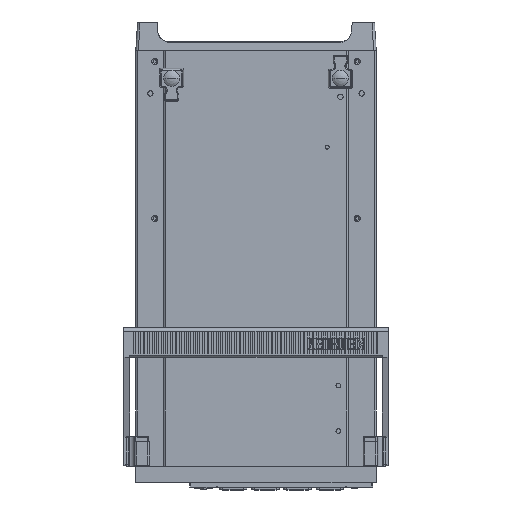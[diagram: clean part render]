
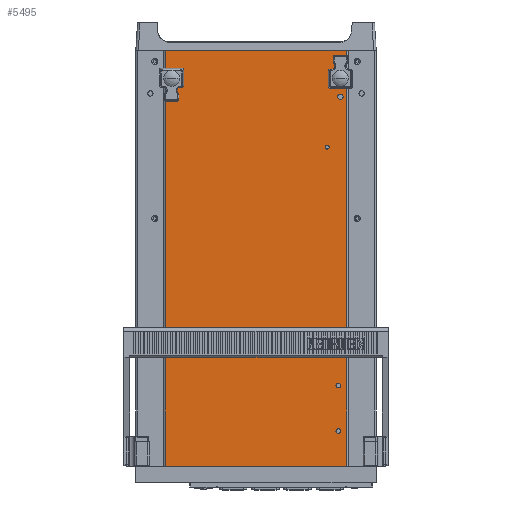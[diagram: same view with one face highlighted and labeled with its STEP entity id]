
A CAD part, front view. The second image highlights one B-rep face of the part: STEP entity #5495.
In plain terms, the highlighted planar face has unit normal (0, -1, 0).
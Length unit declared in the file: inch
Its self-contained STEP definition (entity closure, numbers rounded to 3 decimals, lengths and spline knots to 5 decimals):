
#247=CARTESIAN_POINT('',(-7.015,0.,-1.72));
#248=DIRECTION('',(0.,1.,0.));
#249=DIRECTION('',(1.,0.,0.));
#250=AXIS2_PLACEMENT_3D('',#247,#248,#249);
#255=CARTESIAN_POINT('',(-7.015,0.,-1.72));
#256=DIRECTION('',(0.,1.,0.));
#257=DIRECTION('',(-1.,0.,0.));
#258=AXIS2_PLACEMENT_3D('',#255,#256,#257);
#263=CARTESIAN_POINT('',(-7.015,0.,-1.07));
#264=DIRECTION('',(0.,1.,0.));
#265=DIRECTION('',(1.,0.,0.));
#266=AXIS2_PLACEMENT_3D('',#263,#264,#265);
#271=CARTESIAN_POINT('',(-7.015,0.,-1.07));
#272=DIRECTION('',(0.,1.,0.));
#273=DIRECTION('',(-1.,0.,0.));
#274=AXIS2_PLACEMENT_3D('',#271,#272,#273);
#279=CARTESIAN_POINT('',(-1.105,0.,-1.72));
#280=DIRECTION('',(0.,1.,0.));
#281=DIRECTION('',(1.,0.,0.));
#282=AXIS2_PLACEMENT_3D('',#279,#280,#281);
#287=CARTESIAN_POINT('',(-1.105,0.,-1.72));
#288=DIRECTION('',(0.,1.,0.));
#289=DIRECTION('',(-1.,0.,0.));
#290=AXIS2_PLACEMENT_3D('',#287,#288,#289);
#295=CARTESIAN_POINT('',(-1.105,0.,-1.07));
#296=DIRECTION('',(0.,1.,0.));
#297=DIRECTION('',(1.,0.,0.));
#298=AXIS2_PLACEMENT_3D('',#295,#296,#297);
#303=CARTESIAN_POINT('',(-1.105,0.,-1.07));
#304=DIRECTION('',(0.,1.,0.));
#305=DIRECTION('',(-1.,0.,0.));
#306=AXIS2_PLACEMENT_3D('',#303,#304,#305);
#311=CARTESIAN_POINT('',(-1.565,0.,-3.48));
#312=DIRECTION('',(0.,1.,0.));
#313=DIRECTION('',(1.,0.,0.));
#314=AXIS2_PLACEMENT_3D('',#311,#312,#313);
#319=CARTESIAN_POINT('',(-1.565,0.,-3.48));
#320=DIRECTION('',(0.,1.,0.));
#321=DIRECTION('',(-1.,0.,0.));
#322=AXIS2_PLACEMENT_3D('',#319,#320,#321);
#327=DIRECTION('',(-1.,0.,0.));
#328=VECTOR('',#327,6.346);
#329=CARTESIAN_POINT('',(-0.887,0.,-0.1));
#330=LINE('',#329,#328);
#334=DIRECTION('',(0.,0.,-1.));
#335=VECTOR('',#334,14.55);
#336=CARTESIAN_POINT('',(-0.887,0.,-0.1));
#337=LINE('',#336,#335);
#341=DIRECTION('',(-1.,0.,0.));
#342=VECTOR('',#341,6.346);
#343=CARTESIAN_POINT('',(-0.887,0.,-14.65));
#344=LINE('',#343,#342);
#348=CARTESIAN_POINT('',(-1.176,0.,-11.83));
#349=DIRECTION('',(0.,1.,0.));
#350=DIRECTION('',(0.,0.,-1.));
#351=AXIS2_PLACEMENT_3D('',#348,#349,#350);
#356=CARTESIAN_POINT('',(-1.176,0.,-11.83));
#357=DIRECTION('',(0.,1.,0.));
#358=DIRECTION('',(0.,0.,1.));
#359=AXIS2_PLACEMENT_3D('',#356,#357,#358);
#364=CARTESIAN_POINT('',(-1.176,0.,-13.424));
#365=DIRECTION('',(0.,1.,0.));
#366=DIRECTION('',(0.,0.,-1.));
#367=AXIS2_PLACEMENT_3D('',#364,#365,#366);
#372=CARTESIAN_POINT('',(-1.176,0.,-13.424));
#373=DIRECTION('',(0.,1.,0.));
#374=DIRECTION('',(0.,0.,1.));
#375=AXIS2_PLACEMENT_3D('',#372,#373,#374);
#380=CARTESIAN_POINT('',(-5.06,0.,-9.91));
#381=DIRECTION('',(0.,1.,0.));
#382=DIRECTION('',(1.,0.,0.));
#383=AXIS2_PLACEMENT_3D('',#380,#381,#382);
#388=CARTESIAN_POINT('',(-5.06,0.,-9.91));
#389=DIRECTION('',(0.,1.,0.));
#390=DIRECTION('',(-1.,0.,0.));
#391=AXIS2_PLACEMENT_3D('',#388,#389,#390);
#396=CARTESIAN_POINT('',(-4.56,0.,-9.91));
#397=DIRECTION('',(0.,1.,0.));
#398=DIRECTION('',(1.,0.,0.));
#399=AXIS2_PLACEMENT_3D('',#396,#397,#398);
#404=CARTESIAN_POINT('',(-4.56,0.,-9.91));
#405=DIRECTION('',(0.,1.,0.));
#406=DIRECTION('',(-1.,0.,0.));
#407=AXIS2_PLACEMENT_3D('',#404,#405,#406);
#3551=DIRECTION('',(0.,0.,-1.));
#3552=VECTOR('',#3551,14.55);
#3553=CARTESIAN_POINT('',(-7.233,0.,-0.1));
#3554=LINE('',#3553,#3552);
#4700=CARTESIAN_POINT('',(-0.887,0.,-14.65));
#4701=CARTESIAN_POINT('',(-7.233,0.,-14.65));
#4702=VERTEX_POINT('',#4700);
#4703=VERTEX_POINT('',#4701);
#4732=CARTESIAN_POINT('',(-6.9185,0.,-1.72));
#4733=CARTESIAN_POINT('',(-7.1115,0.,-1.72));
#4734=VERTEX_POINT('',#4732);
#4735=VERTEX_POINT('',#4733);
#4736=CARTESIAN_POINT('',(-6.9085,0.,-1.07));
#4737=CARTESIAN_POINT('',(-7.1215,0.,-1.07));
#4738=VERTEX_POINT('',#4736);
#4739=VERTEX_POINT('',#4737);
#4740=CARTESIAN_POINT('',(-1.0085,0.,-1.72));
#4741=CARTESIAN_POINT('',(-1.2015,0.,-1.72));
#4742=VERTEX_POINT('',#4740);
#4743=VERTEX_POINT('',#4741);
#4744=CARTESIAN_POINT('',(-0.9985,0.,-1.07));
#4745=CARTESIAN_POINT('',(-1.2115,0.,-1.07));
#4746=VERTEX_POINT('',#4744);
#4747=VERTEX_POINT('',#4745);
#4796=CARTESIAN_POINT('',(-1.4965,0.,-3.48));
#4797=CARTESIAN_POINT('',(-1.6335,0.,-3.48));
#4798=VERTEX_POINT('',#4796);
#4799=VERTEX_POINT('',#4797);
#4856=CARTESIAN_POINT('',(-0.887,0.,-0.1));
#4857=VERTEX_POINT('',#4856);
#4858=CARTESIAN_POINT('',(-7.233,0.,-0.1));
#4859=VERTEX_POINT('',#4858);
#5054=CARTESIAN_POINT('',(-1.176,0.,-11.913));
#5055=CARTESIAN_POINT('',(-1.176,0.,-11.747));
#5056=VERTEX_POINT('',#5054);
#5057=VERTEX_POINT('',#5055);
#5058=CARTESIAN_POINT('',(-1.176,0.,-13.507));
#5059=CARTESIAN_POINT('',(-1.176,0.,-13.341));
#5060=VERTEX_POINT('',#5058);
#5061=VERTEX_POINT('',#5059);
#5296=CARTESIAN_POINT('',(-5.0045,0.,-9.91));
#5297=CARTESIAN_POINT('',(-5.1155,0.,-9.91));
#5298=VERTEX_POINT('',#5296);
#5299=VERTEX_POINT('',#5297);
#5300=CARTESIAN_POINT('',(-4.5045,0.,-9.91));
#5301=CARTESIAN_POINT('',(-4.6155,0.,-9.91));
#5302=VERTEX_POINT('',#5300);
#5303=VERTEX_POINT('',#5301);
#5428=CARTESIAN_POINT('',(-0.887,0.,0.));
#5429=DIRECTION('',(0.,-1.,0.));
#5430=DIRECTION('',(-1.,0.,0.));
#5431=AXIS2_PLACEMENT_3D('',#5428,#5429,#5430);
#5432=PLANE('',#5431);
#5434=ORIENTED_EDGE('',*,*,#5433,.F.);
#5436=ORIENTED_EDGE('',*,*,#5435,.T.);
#5438=ORIENTED_EDGE('',*,*,#5437,.T.);
#5440=ORIENTED_EDGE('',*,*,#5439,.F.);
#5441=EDGE_LOOP('',(#5434,#5436,#5438,#5440));
#5442=FACE_OUTER_BOUND('',#5441,.F.);
#5444=ORIENTED_EDGE('',*,*,#5443,.F.);
#5446=ORIENTED_EDGE('',*,*,#5445,.F.);
#5447=EDGE_LOOP('',(#5444,#5446));
#5448=FACE_BOUND('',#5447,.F.);
#5450=ORIENTED_EDGE('',*,*,#5449,.F.);
#5452=ORIENTED_EDGE('',*,*,#5451,.F.);
#5453=EDGE_LOOP('',(#5450,#5452));
#5454=FACE_BOUND('',#5453,.F.);
#5456=ORIENTED_EDGE('',*,*,#5455,.F.);
#5458=ORIENTED_EDGE('',*,*,#5457,.F.);
#5459=EDGE_LOOP('',(#5456,#5458));
#5460=FACE_BOUND('',#5459,.F.);
#5462=ORIENTED_EDGE('',*,*,#5461,.F.);
#5464=ORIENTED_EDGE('',*,*,#5463,.F.);
#5465=EDGE_LOOP('',(#5462,#5464));
#5466=FACE_BOUND('',#5465,.F.);
#5468=ORIENTED_EDGE('',*,*,#5467,.F.);
#5470=ORIENTED_EDGE('',*,*,#5469,.F.);
#5471=EDGE_LOOP('',(#5468,#5470));
#5472=FACE_BOUND('',#5471,.F.);
#5473=ORIENTED_EDGE('',*,*,#5385,.F.);
#5474=ORIENTED_EDGE('',*,*,#5422,.F.);
#5475=EDGE_LOOP('',(#5473,#5474));
#5476=FACE_BOUND('',#5475,.F.);
#5478=ORIENTED_EDGE('',*,*,#5477,.F.);
#5480=ORIENTED_EDGE('',*,*,#5479,.F.);
#5481=EDGE_LOOP('',(#5478,#5480));
#5482=FACE_BOUND('',#5481,.F.);
#5484=ORIENTED_EDGE('',*,*,#5483,.F.);
#5486=ORIENTED_EDGE('',*,*,#5485,.F.);
#5487=EDGE_LOOP('',(#5484,#5486));
#5488=FACE_BOUND('',#5487,.F.);
#5490=ORIENTED_EDGE('',*,*,#5489,.F.);
#5492=ORIENTED_EDGE('',*,*,#5491,.F.);
#5493=EDGE_LOOP('',(#5490,#5492));
#5494=FACE_BOUND('',#5493,.F.);
#5495=ADVANCED_FACE('',(#5442,#5448,#5454,#5460,#5466,#5472,#5476,#5482,#5488,
#5494),#5432,.T.);
#251=CIRCLE('',#250,0.0965);
#259=CIRCLE('',#258,0.0965);
#267=CIRCLE('',#266,0.1065);
#275=CIRCLE('',#274,0.1065);
#283=CIRCLE('',#282,0.0965);
#291=CIRCLE('',#290,0.0965);
#299=CIRCLE('',#298,0.1065);
#307=CIRCLE('',#306,0.1065);
#315=CIRCLE('',#314,0.0685);
#323=CIRCLE('',#322,0.0685);
#352=CIRCLE('',#351,0.083);
#360=CIRCLE('',#359,0.083);
#368=CIRCLE('',#367,0.083);
#376=CIRCLE('',#375,0.083);
#384=CIRCLE('',#383,0.0555);
#392=CIRCLE('',#391,0.0555);
#400=CIRCLE('',#399,0.0555);
#408=CIRCLE('',#407,0.0555);
#5385=EDGE_CURVE('',#5056,#5057,#352,.T.);
#5422=EDGE_CURVE('',#5057,#5056,#360,.T.);
#5433=EDGE_CURVE('',#4857,#4859,#330,.T.);
#5435=EDGE_CURVE('',#4857,#4702,#337,.T.);
#5437=EDGE_CURVE('',#4702,#4703,#344,.T.);
#5439=EDGE_CURVE('',#4859,#4703,#3554,.T.);
#5443=EDGE_CURVE('',#4738,#4739,#267,.T.);
#5445=EDGE_CURVE('',#4739,#4738,#275,.T.);
#5449=EDGE_CURVE('',#4742,#4743,#283,.T.);
#5451=EDGE_CURVE('',#4743,#4742,#291,.T.);
#5455=EDGE_CURVE('',#4746,#4747,#299,.T.);
#5457=EDGE_CURVE('',#4747,#4746,#307,.T.);
#5461=EDGE_CURVE('',#4798,#4799,#315,.T.);
#5463=EDGE_CURVE('',#4799,#4798,#323,.T.);
#5467=EDGE_CURVE('',#4734,#4735,#251,.T.);
#5469=EDGE_CURVE('',#4735,#4734,#259,.T.);
#5477=EDGE_CURVE('',#5060,#5061,#368,.T.);
#5479=EDGE_CURVE('',#5061,#5060,#376,.T.);
#5483=EDGE_CURVE('',#5298,#5299,#384,.T.);
#5485=EDGE_CURVE('',#5299,#5298,#392,.T.);
#5489=EDGE_CURVE('',#5302,#5303,#400,.T.);
#5491=EDGE_CURVE('',#5303,#5302,#408,.T.);
